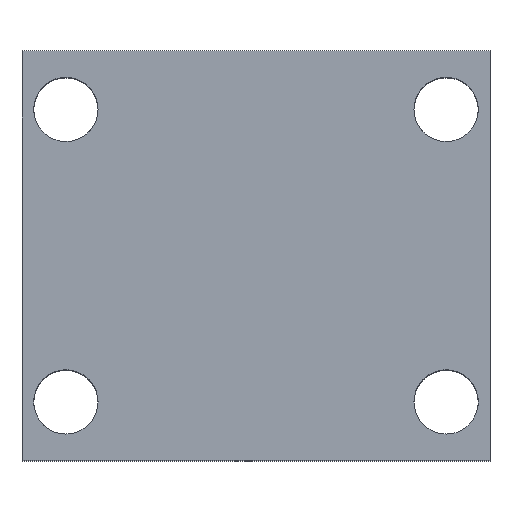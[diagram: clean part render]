
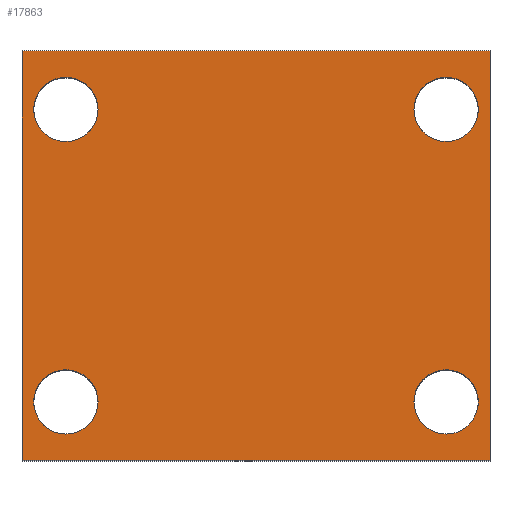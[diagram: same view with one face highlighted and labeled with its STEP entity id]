
A CAD part, top view. The second image highlights one B-rep face of the part: STEP entity #17863.
In plain terms, the highlighted planar face has unit normal (0, 0, 1).
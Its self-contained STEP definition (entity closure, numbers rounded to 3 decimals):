
#19 = FACE_BOUND ( 'NONE', #8394, .T. ) ;
#57 = CIRCLE ( 'NONE', #12785, 11. ) ;
#208 = DIRECTION ( 'NONE',  ( -1., 0., 0. ) ) ;
#320 = ORIENTED_EDGE ( 'NONE', *, *, #1704, .T. ) ;
#329 = CARTESIAN_POINT ( 'NONE',  ( -65., 20., 65. ) ) ;
#376 = DIRECTION ( 'NONE',  ( 0., 0., -1. ) ) ;
#468 = AXIS2_PLACEMENT_3D ( 'NONE', #1959, #11665, #3481 ) ;
#511 = ORIENTED_EDGE ( 'NONE', *, *, #15126, .T. ) ;
#741 = CARTESIAN_POINT ( 'NONE',  ( 80., 140., 65. ) ) ;
#1165 = CARTESIAN_POINT ( 'NONE',  ( 80., 0., 65. ) ) ;
#1248 = CARTESIAN_POINT ( 'NONE',  ( 65., 20., 65. ) ) ;
#1302 = LINE ( 'NONE', #2356, #5662 ) ;
#1506 = VERTEX_POINT ( 'NONE', #17194 ) ;
#1507 = EDGE_CURVE ( 'NONE', #9748, #10996, #7947, .T. ) ;
#1704 = EDGE_CURVE ( 'NONE', #7620, #3627, #7519, .T. ) ;
#1959 = CARTESIAN_POINT ( 'NONE',  ( 65., 120., 65. ) ) ;
#1961 = CIRCLE ( 'NONE', #8397, 11. ) ;
#1979 = CIRCLE ( 'NONE', #12641, 11. ) ;
#1996 = AXIS2_PLACEMENT_3D ( 'NONE', #3464, #13027, #4944 ) ;
#2356 = CARTESIAN_POINT ( 'NONE',  ( -80., 0., 65. ) ) ;
#2657 = DIRECTION ( 'NONE',  ( 0., 0., -1. ) ) ;
#2764 = DIRECTION ( 'NONE',  ( -1., 0., 0. ) ) ;
#2801 = ORIENTED_EDGE ( 'NONE', *, *, #7433, .T. ) ;
#2836 = CARTESIAN_POINT ( 'NONE',  ( -80., 0., 65. ) ) ;
#3464 = CARTESIAN_POINT ( 'NONE',  ( 65., 20., 65. ) ) ;
#3481 = DIRECTION ( 'NONE',  ( -1., 0., 0. ) ) ;
#3537 = FACE_BOUND ( 'NONE', #5716, .T. ) ;
#3627 = VERTEX_POINT ( 'NONE', #7788 ) ;
#3855 = DIRECTION ( 'NONE',  ( 1., 0., 0. ) ) ;
#3920 = CIRCLE ( 'NONE', #468, 11. ) ;
#4250 = ORIENTED_EDGE ( 'NONE', *, *, #1507, .T. ) ;
#4290 = VECTOR ( 'NONE', #17217, 1000. ) ;
#4346 = CARTESIAN_POINT ( 'NONE',  ( -65., 120., 65. ) ) ;
#4588 = CARTESIAN_POINT ( 'NONE',  ( 76., 20., 65. ) ) ;
#4602 = ORIENTED_EDGE ( 'NONE', *, *, #13036, .T. ) ;
#4944 = DIRECTION ( 'NONE',  ( -1., 0., 0. ) ) ;
#5260 = ORIENTED_EDGE ( 'NONE', *, *, #10494, .F. ) ;
#5266 = VECTOR ( 'NONE', #17056, 1000. ) ;
#5369 = ORIENTED_EDGE ( 'NONE', *, *, #13961, .T. ) ;
#5660 = EDGE_LOOP ( 'NONE', ( #5369, #320 ) ) ;
#5662 = VECTOR ( 'NONE', #3855, 1000. ) ;
#5716 = EDGE_LOOP ( 'NONE', ( #4602, #511 ) ) ;
#5752 = DIRECTION ( 'NONE',  ( -1., 0., 0. ) ) ;
#5923 = ORIENTED_EDGE ( 'NONE', *, *, #12088, .T. ) ;
#6283 = EDGE_LOOP ( 'NONE', ( #13202, #8442, #5260, #4250 ) ) ;
#6350 = CARTESIAN_POINT ( 'NONE',  ( -80., 140., 65. ) ) ;
#7137 = VECTOR ( 'NONE', #7592, 1000. ) ;
#7433 = EDGE_CURVE ( 'NONE', #1506, #14557, #9754, .T. ) ;
#7519 = CIRCLE ( 'NONE', #13155, 11. ) ;
#7592 = DIRECTION ( 'NONE',  ( 1., 0., 0. ) ) ;
#7620 = VERTEX_POINT ( 'NONE', #15994 ) ;
#7770 = CARTESIAN_POINT ( 'NONE',  ( -65., 20., 65. ) ) ;
#7788 = CARTESIAN_POINT ( 'NONE',  ( -76., 20., 65. ) ) ;
#7793 = DIRECTION ( 'NONE',  ( 0., 0., -1. ) ) ;
#7947 = LINE ( 'NONE', #17080, #4290 ) ;
#8032 = DIRECTION ( 'NONE',  ( 0., 0., -1. ) ) ;
#8394 = EDGE_LOOP ( 'NONE', ( #14478, #2801 ) ) ;
#8397 = AXIS2_PLACEMENT_3D ( 'NONE', #7770, #17436, #9152 ) ;
#8442 = ORIENTED_EDGE ( 'NONE', *, *, #9432, .F. ) ;
#8709 = EDGE_CURVE ( 'NONE', #13071, #9392, #3920, .T. ) ;
#9152 = DIRECTION ( 'NONE',  ( -1., 0., 0. ) ) ;
#9392 = VERTEX_POINT ( 'NONE', #16807 ) ;
#9432 = EDGE_CURVE ( 'NONE', #10849, #17931, #10147, .T. ) ;
#9736 = AXIS2_PLACEMENT_3D ( 'NONE', #16028, #7793, #17462 ) ;
#9748 = VERTEX_POINT ( 'NONE', #13414 ) ;
#9754 = CIRCLE ( 'NONE', #13665, 11. ) ;
#10147 = LINE ( 'NONE', #11396, #5266 ) ;
#10494 = EDGE_CURVE ( 'NONE', #9748, #10849, #14413, .T. ) ;
#10849 = VERTEX_POINT ( 'NONE', #741 ) ;
#10951 = CARTESIAN_POINT ( 'NONE',  ( -65., 120., 65. ) ) ;
#10996 = VERTEX_POINT ( 'NONE', #2836 ) ;
#11038 = DIRECTION ( 'NONE',  ( 0., 0., -1. ) ) ;
#11208 = EDGE_CURVE ( 'NONE', #10996, #17931, #1302, .T. ) ;
#11289 = CIRCLE ( 'NONE', #1996, 11. ) ;
#11396 = CARTESIAN_POINT ( 'NONE',  ( 80., 140., 65. ) ) ;
#11665 = DIRECTION ( 'NONE',  ( 0., 0., -1. ) ) ;
#12088 = EDGE_CURVE ( 'NONE', #9392, #13071, #13052, .T. ) ;
#12273 = DIRECTION ( 'NONE',  ( -1., 0., 0. ) ) ;
#12370 = CARTESIAN_POINT ( 'NONE',  ( 76., 120., 65. ) ) ;
#12489 = CARTESIAN_POINT ( 'NONE',  ( -76., 120., 65. ) ) ;
#12641 = AXIS2_PLACEMENT_3D ( 'NONE', #1248, #11038, #2764 ) ;
#12654 = EDGE_LOOP ( 'NONE', ( #5923, #13043 ) ) ;
#12699 = VERTEX_POINT ( 'NONE', #4588 ) ;
#12785 = AXIS2_PLACEMENT_3D ( 'NONE', #10951, #2657, #12273 ) ;
#13027 = DIRECTION ( 'NONE',  ( 0., 0., -1. ) ) ;
#13036 = EDGE_CURVE ( 'NONE', #15259, #12699, #1979, .T. ) ;
#13043 = ORIENTED_EDGE ( 'NONE', *, *, #8709, .T. ) ;
#13052 = CIRCLE ( 'NONE', #9736, 11. ) ;
#13071 = VERTEX_POINT ( 'NONE', #12370 ) ;
#13155 = AXIS2_PLACEMENT_3D ( 'NONE', #329, #376, #208 ) ;
#13202 = ORIENTED_EDGE ( 'NONE', *, *, #11208, .T. ) ;
#13314 = CARTESIAN_POINT ( 'NONE',  ( 54., 20., 65. ) ) ;
#13414 = CARTESIAN_POINT ( 'NONE',  ( -80., 140., 65. ) ) ;
#13665 = AXIS2_PLACEMENT_3D ( 'NONE', #4346, #13867, #5752 ) ;
#13867 = DIRECTION ( 'NONE',  ( 0., 0., -1. ) ) ;
#13961 = EDGE_CURVE ( 'NONE', #3627, #7620, #1961, .T. ) ;
#14029 = FACE_OUTER_BOUND ( 'NONE', #6283, .T. ) ;
#14413 = LINE ( 'NONE', #6350, #7137 ) ;
#14478 = ORIENTED_EDGE ( 'NONE', *, *, #15898, .T. ) ;
#14505 = FACE_BOUND ( 'NONE', #5660, .T. ) ;
#14557 = VERTEX_POINT ( 'NONE', #12489 ) ;
#15126 = EDGE_CURVE ( 'NONE', #12699, #15259, #11289, .T. ) ;
#15259 = VERTEX_POINT ( 'NONE', #13314 ) ;
#15898 = EDGE_CURVE ( 'NONE', #14557, #1506, #57, .T. ) ;
#15994 = CARTESIAN_POINT ( 'NONE',  ( -54., 20., 65. ) ) ;
#16028 = CARTESIAN_POINT ( 'NONE',  ( 65., 120., 65. ) ) ;
#16209 = CARTESIAN_POINT ( 'NONE',  ( -80., 140., 65. ) ) ;
#16476 = AXIS2_PLACEMENT_3D ( 'NONE', #16209, #8032, #17684 ) ;
#16807 = CARTESIAN_POINT ( 'NONE',  ( 54., 120., 65. ) ) ;
#17056 = DIRECTION ( 'NONE',  ( 0., -1., 0. ) ) ;
#17080 = CARTESIAN_POINT ( 'NONE',  ( -80., 140., 65. ) ) ;
#17194 = CARTESIAN_POINT ( 'NONE',  ( -54., 120., 65. ) ) ;
#17217 = DIRECTION ( 'NONE',  ( 0., -1., 0. ) ) ;
#17436 = DIRECTION ( 'NONE',  ( 0., 0., -1. ) ) ;
#17462 = DIRECTION ( 'NONE',  ( -1., 0., 0. ) ) ;
#17569 = PLANE ( 'NONE',  #16476 ) ;
#17684 = DIRECTION ( 'NONE',  ( -1., 0., 0. ) ) ;
#17793 = FACE_BOUND ( 'NONE', #12654, .T. ) ;
#17863 = ADVANCED_FACE ( 'NONE', ( #19, #14505, #3537, #17793, #14029 ), #17569, .F. ) ;
#17931 = VERTEX_POINT ( 'NONE', #1165 ) ;
